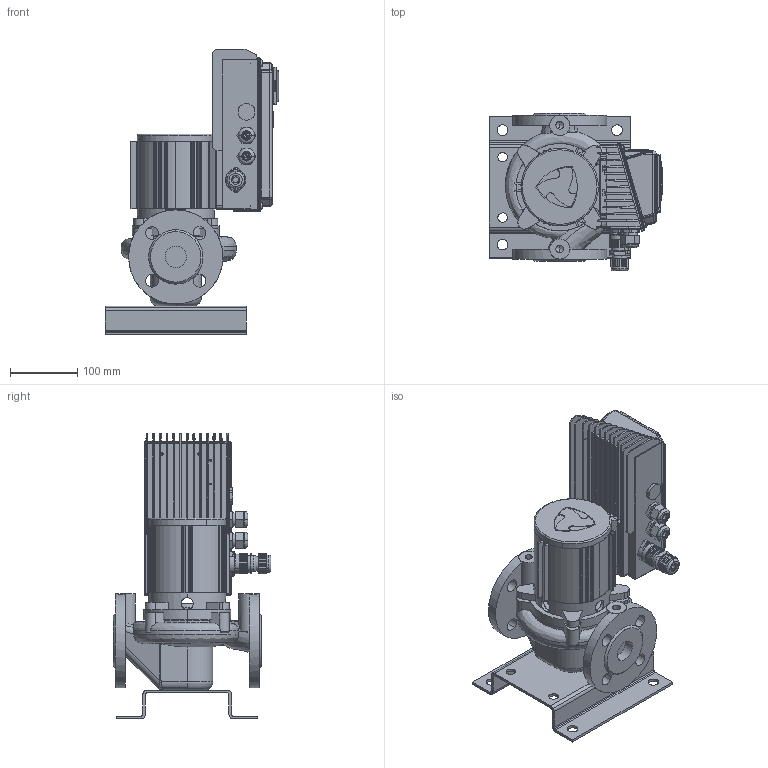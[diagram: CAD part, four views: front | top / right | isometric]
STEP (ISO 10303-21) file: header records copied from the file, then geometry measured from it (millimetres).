
FILE_DESCRIPTION(('STEP AP214'),'1');
FILE_NAME('export.stp','2018-05-31T12:27:37',(' '),(' '),'Spatial InterOp 3D',' ',' ');
FILE_SCHEMA(('AUTOMOTIVE_DESIGN { 1 0 10303 214 1 1 1 1 }'));
Length unit declared in the file: millimetre
Products named in the file (33): V_MOP732742_SC; RU_OP_732_742; TKILPI_OP_7; W_L32A4800_SC; V_EKN12OP7; V_TLL32AAP15AKP25; V_PPL32A; V_JALKA35973; P100471; P100466; P100453; P100467; DIN_7985-M5x12; P100515; P100512; P100513; P100514; P100509; ontto_sylinteri; DIN_7985-M3x12; P100606; P100607; P100565; P100567; P100566; P100569; P100581; P101504; P101332; PART3; PART4
Assembly tree (37 placements, depth 4):
  W_L32A4800_SC
    V_MOP732742_SC
      RU_OP_732_742
      TKILPI_OP_7
    V_EKN12OP7
    V_TLL32AAP15AKP25
    V_PPL32A
    V_JALKA35973
    P100471
      P100466
      P100453
      P100467
      DIN_7985-M5x12  x4
      P100515
        P100512
        P100513
        P100514
        P100509
        ontto_sylinteri
      DIN_7985-M3x12  x2
      P100606
        P100607
        P100565
        ontto_sylinteri
      P100567
        P100566
        P100565
        ontto_sylinteri
      P100569
      P100581
      P101504
      P101332
        PART3
        PART4
Bounding box: 258.32 x 234.34 x 425.08 mm (x, y, z)
Volume: 2935648.8 mm3; surface area: 817361.7 mm2
Topology: 31 solids, 31 shells, 2449 faces, 6499 edges, 4151 vertices
Faces by surface type: plane 1104, cylinder 944, torus 133, cone 102, sphere 88, bspline 78
Entity records: 108312 total; most frequent: CARTESIAN_POINT 21837, DIRECTION 13019, ORIENTED_EDGE 12338, EDGE_CURVE 6169, AXIS2_PLACEMENT_3D 4887, VERTEX_POINT 3977, STYLED_ITEM 3829, PRESENTATION_STYLE_ASSIGNMENT 3829
